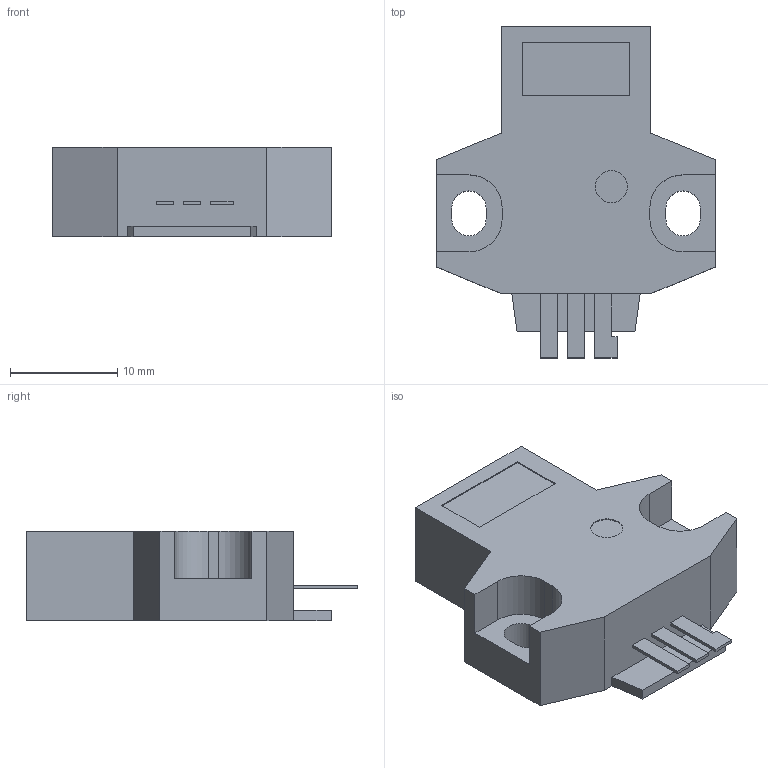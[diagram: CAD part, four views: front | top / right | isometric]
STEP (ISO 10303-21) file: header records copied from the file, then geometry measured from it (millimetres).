
FILE_DESCRIPTION (( 'STEP AP203' ), '1' );
FILE_NAME ('PM2-LF10.STEP', '2005-09-06T01:52:42', ( '' ), ( '' ), 'SwSTEP 2.0', 'SolidWorks 2004073', '' );
FILE_SCHEMA (( 'CONFIG_CONTROL_DESIGN' ));
Length unit declared in the file: millimetre
Products named in the file (1): PM2-LF10
Bounding box: 26 x 31 x 8.4 mm (x, y, z)
Volume: 3803.3 mm3; surface area: 2086.2 mm2
Topology: 1 solids, 1 shells, 61 faces, 162 edges, 108 vertices
Faces by surface type: plane 51, cylinder 10
Entity records: 1961 total; most frequent: CARTESIAN_POINT 332, ORIENTED_EDGE 324, DIRECTION 306, EDGE_CURVE 162, VECTOR 142, LINE 142, VERTEX_POINT 108, AXIS2_PLACEMENT_3D 82
